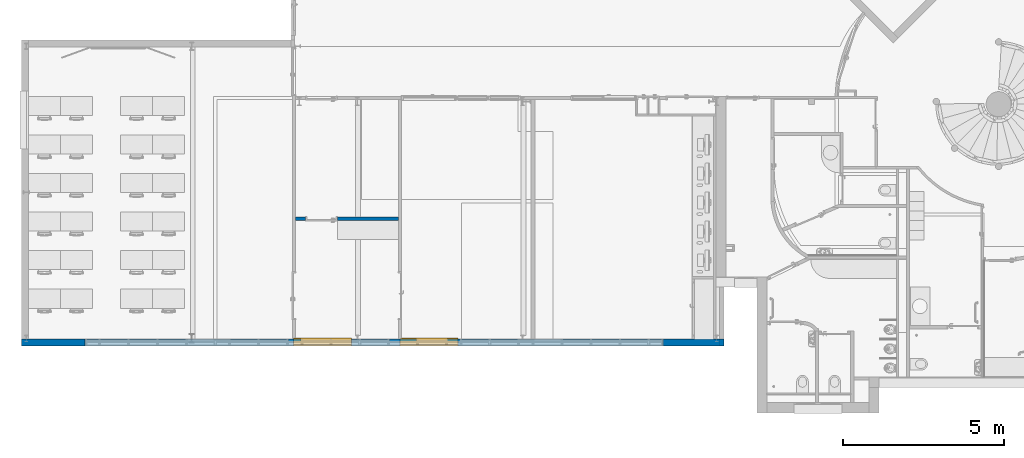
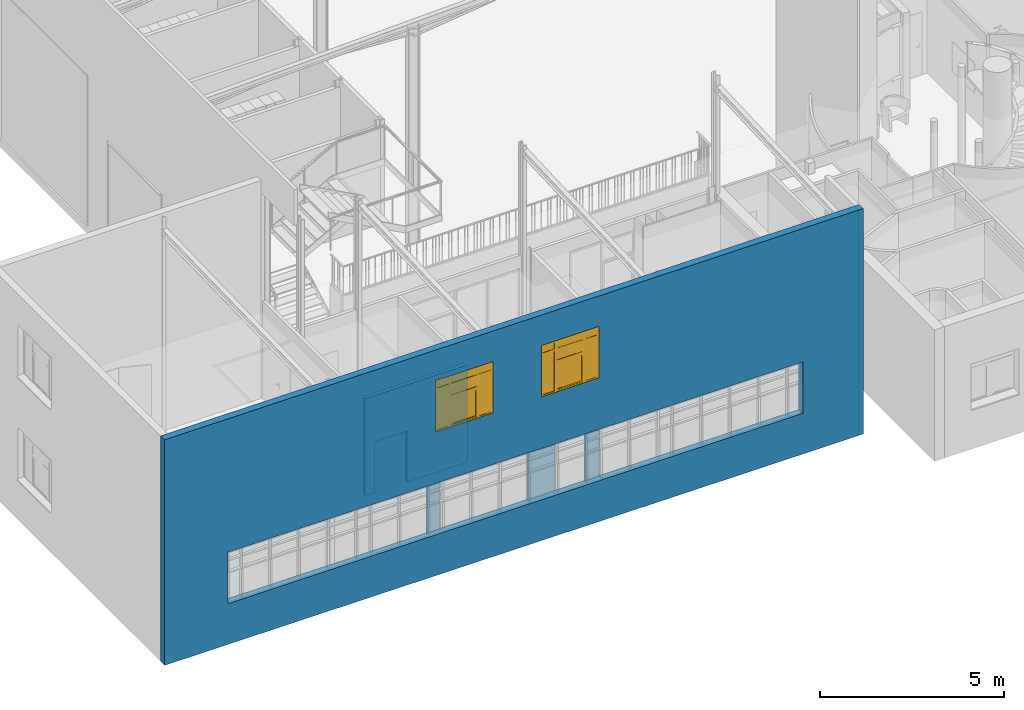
"""IFC2X3 building model written with IfcOpenShell, lengths in centimetres."""

from ifc_helpers import new_model, entity, si_unit, converted_unit, derived_unit, direction, frame, frame_2d, origin, place, context, subcontext, project, spatial, polyline, rectangle, outline, extrude, clip, bounded_halfspace, source, transform, mapped, material, layer, layer_set, layer_usage, type_object, type_shapes, element, fill, save


model = new_model("IFC2X3")

# Units and contexts
model_context = context("Model", 3, precision=0.001, world=origin(), true_north=direction((6.12303176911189e-17, 1.0)))
body_context = subcontext(model_context, "Body", "Model", "MODEL_VIEW")
ifc_project = project(units=[si_unit("LENGTHUNIT", "METRE", prefix="CENTI"), si_unit("AREAUNIT", "SQUARE_METRE"), si_unit("VOLUMEUNIT", "CUBIC_METRE"), converted_unit("PLANEANGLEUNIT", "DEGREE", entity("IfcRatioMeasure", 0.0174532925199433), si_unit("PLANEANGLEUNIT", "RADIAN"), dimensions=[0, 0, 0, 0, 0, 0, 0]), si_unit("MASSUNIT", "GRAM", prefix="KILO"), si_unit("TIMEUNIT", "SECOND"), si_unit("FREQUENCYUNIT", "HERTZ"), si_unit("THERMODYNAMICTEMPERATUREUNIT", "DEGREE_CELSIUS"), derived_unit("THERMALTRANSMITTANCEUNIT", [(si_unit("MASSUNIT", "GRAM", prefix="KILO"), 1), (si_unit("THERMODYNAMICTEMPERATUREUNIT", "KELVIN"), -1), (si_unit("TIMEUNIT", "SECOND"), -3)]), derived_unit("VOLUMETRICFLOWRATEUNIT", [(si_unit("LENGTHUNIT", "METRE"), 3), (si_unit("TIMEUNIT", "SECOND"), -1)]), si_unit("ELECTRICCURRENTUNIT", "AMPERE"), si_unit("ELECTRICVOLTAGEUNIT", "VOLT"), si_unit("POWERUNIT", "WATT"), si_unit("FORCEUNIT", "NEWTON", prefix="KILO"), si_unit("ILLUMINANCEUNIT", "LUX"), si_unit("LUMINOUSFLUXUNIT", "LUMEN"), si_unit("LUMINOUSINTENSITYUNIT", "CANDELA"), derived_unit("USERDEFINED", [(si_unit("MASSUNIT", "GRAM", prefix="KILO"), -1), (si_unit("LENGTHUNIT", "METRE"), -2), (si_unit("TIMEUNIT", "SECOND"), 3), (si_unit("LUMINOUSFLUXUNIT", "LUMEN"), 1)]), derived_unit("LINEARVELOCITYUNIT", [(si_unit("LENGTHUNIT", "METRE"), 1), (si_unit("TIMEUNIT", "SECOND"), -1)]), si_unit("PRESSUREUNIT", "PASCAL"), derived_unit("USERDEFINED", [(si_unit("LENGTHUNIT", "METRE"), -2), (si_unit("MASSUNIT", "GRAM", prefix="KILO"), 1), (si_unit("TIMEUNIT", "SECOND"), -2)])], contexts=[model_context])

# Site, building, storey
site_placement = place(None, frame((8.62739174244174, -249.285249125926, 0.0)))
site = spatial("IfcSite", under=ifc_project, at=site_placement, Name="Default", CompositionType="ELEMENT")
building_placement = place(site_placement, origin())
building = spatial("IfcBuilding", under=site, at=building_placement, CompositionType="ELEMENT")
storey_1_placement = place(building_placement, origin())
storey_1 = spatial("IfcBuildingStorey", under=building, at=storey_1_placement, Name="RDC", CompositionType="ELEMENT", Elevation=-8.82465566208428e-11)

# Walls
ifc_material_1 = material(Name="Plâtre EXISTANT")
ifc_layer_1 = layer(ifc_material_1, 7.0)
ifc_layer_set_1 = layer_set([ifc_layer_1], Name="Mur de base:PLA EXISTANT 7")
ifc_layer_usage_1 = layer_usage(ifc_layer_set_1, "AXIS2", "NEGATIVE", 3.5)
wall_type_1 = type_object("IfcWallType", Name="Mur de base:PLA EXISTANT 7", PredefinedType="STANDARD", material=ifc_layer_set_1)
wall_1_placement = place(storey_1_placement, frame((1146.5, 18.4999999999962, 0.0)))
element("IfcWallStandardCase", 1, at=wall_1_placement, inside=storey_1, type_object=wall_type_1, material=ifc_layer_usage_1, Name="Mur de base:PLA EXISTANT 7", ObjectType="Mur de base:PLA EXISTANT 7", context=body_context, shape_type="SweptSolid", body=[
    extrude(rectangle(XDim=84.9999999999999, YDim=7.0, at=frame_2d((42.5, 0.0), x_axis=(-1.0, 0.0))), origin(), (0.0, 0.0, 1.0), 390.0),
])
ifc_layer_usage_2 = layer_usage(ifc_layer_set_1, "AXIS2", "NEGATIVE", 3.5)
wall_2_placement = place(storey_1_placement, frame((1326.5, 18.4999999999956, 0.0)))
element("IfcWallStandardCase", 2, at=wall_2_placement, inside=storey_1, type_object=wall_type_1, material=ifc_layer_usage_2, Name="Mur de base:PLA EXISTANT 7", ObjectType="Mur de base:PLA EXISTANT 7", context=body_context, shape_type="SweptSolid", body=[
    extrude(rectangle(XDim=45.0000000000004, YDim=7.0, at=frame_2d((22.5000000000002, 0.0), x_axis=(-1.0, 0.0))), origin(), (0.0, 0.0, 1.0), 390.0),
])
ifc_layer_usage_3 = layer_usage(ifc_layer_set_1, "AXIS2", "NEGATIVE", 3.5)
wall_3_placement = place(storey_1_placement, frame((831.5, 18.4999999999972, 0.0)))
element("IfcWallStandardCase", 3, at=wall_3_placement, inside=storey_1, type_object=wall_type_1, material=ifc_layer_usage_3, Name="Mur de base:PLA EXISTANT 7", ObjectType="Mur de base:PLA EXISTANT 7", context=body_context, shape_type="SweptSolid", body=[
    extrude(rectangle(XDim=40.0000000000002, YDim=7.0, at=frame_2d((20.0000000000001, 0.0), x_axis=(-1.0, 0.0))), origin(), (0.0, 0.0, 1.0), 390.0),
])

# Wall, openings
ifc_material_2 = material(Name="Tôle/Doublage")
ifc_layer_2 = layer(ifc_material_2, 4.0)
ifc_material_3 = material(Name="Laine minérale")
ifc_layer_3 = layer(ifc_material_3, 16.0)
ifc_material_4 = material(Name="Plâtre")
ifc_layer_4 = layer(ifc_material_4, 2.0)
ifc_layer_set_2 = layer_set([ifc_layer_2, ifc_layer_3, ifc_layer_4], Name="Mur de base:MET 4 + ISO 16 + PLA 2")
ifc_layer_usage_4 = layer_usage(ifc_layer_set_2, "AXIS2", "NEGATIVE", 11.0)
wall_type_2 = type_object("IfcWallType", Name="Mur de base:MET 4 + ISO 16 + PLA 2", PredefinedType="STANDARD", material=ifc_layer_set_2)
wall_4_placement = place(storey_1_placement, frame((2188.90482780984, 11.0, -25.0), z_axis=(0.0, 0.0, 1.0), x_axis=(-1.0, 0.0, 0.0)))
wall_4 = element("IfcWallStandardCase", 4, at=wall_4_placement, inside=storey_1, type_object=wall_type_2, material=ifc_layer_usage_4, Name="Mur de base:MET 4 + ISO 16 + PLA 2", ObjectType="Mur de base:MET 4 + ISO 16 + PLA 2", context=body_context, shape_type="SweptSolid", body=[
    extrude(rectangle(XDim=2188.90482780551, YDim=22.0, at=frame_2d((1094.45241390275, 0.0), x_axis=(-1.0, 0.0))), origin(), (0.0, 0.0, 1.0), 747.000000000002),
])
opening_1_placement = place(wall_4_placement, origin())
element("IfcOpeningElement", 5, at=opening_1_placement, cuts=wall_4, Name="Mur de base:MET 4 + ISO 16 + PLA 2", ObjectType="Opening", context=body_context, shape_type="SweptSolid", body=[
    extrude(rectangle(XDim=170.0, YDim=1800.0, at=frame_2d((2.27373675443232e-13, 0.0), x_axis=(0.0, 1.0))), frame((1089.90482780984, -26.24, 220.0), z_axis=(0.0, 1.0, 0.0), x_axis=(-1.0, 0.0, 0.0)), (0.0, 0.0, 1.0), 52.48),
])
opening_2_placement = place(wall_4_placement, frame((1340.90482780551, 11.0, 476.0)))
opening_2 = element("IfcOpeningElement", 6, at=opening_2_placement, cuts=wall_4, Name="V_90x100-I_90x40:V_90x100-I_90x40:1", ObjectType="Opening", context=body_context, shape_type="SweptSolid", body=[
    extrude(rectangle(XDim=169.999999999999, YDim=180.0, at=frame_2d((84.9999999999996, 90.0000000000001), x_axis=(1.0, 0.0))), frame((0.0, 0.0, 0.0), z_axis=(0.0, -1.0, 0.0), x_axis=(0.0, 0.0, 1.0)), (0.0, 0.0, 1.0), 22.0),
])
opening_3_placement = place(wall_4_placement, frame((1008.90482780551, 11.0, 476.0)))
opening_3 = element("IfcOpeningElement", 7, at=opening_3_placement, cuts=wall_4, Name="V_90x100-I_90x40:V_90x100-I_90x40:1", ObjectType="Opening", context=body_context, shape_type="SweptSolid", body=[
    extrude(rectangle(XDim=169.999999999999, YDim=180.0, at=frame_2d((84.9999999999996, 90.0000000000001), x_axis=(1.0, 0.0))), frame((0.0, 0.0, 0.0), z_axis=(0.0, -1.0, 0.0), x_axis=(0.0, 0.0, 1.0)), (0.0, 0.0, 1.0), 22.0),
])

# Storey
storey_2_placement = place(building_placement, frame((0.0, 0.0, 343.0)))
storey_2 = spatial("IfcBuildingStorey", under=building, at=storey_2_placement, Name="R+1", CompositionType="ELEMENT", Elevation=343.0)

# Window
ifc_material_5 = material(Name="Verre")
window_style = type_object("IfcWindowStyle", Name="V_90x100-I_90x40", ConstructionType="NOTDEFINED", OperationType="NOTDEFINED", ParameterTakesPrecedence=False, Sizeable=False, material=ifc_material_5)
shared_shape = source(origin(), body_context, "Body", "SweptSolid", [
    extrude(outline(polyline([(-50.9, -41.0), (-50.9, -49.0), (-29.9000000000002, -49.0), (-29.9000000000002, -85.0), (-21.8999999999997, -85.0), (-21.8999999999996, -49.0), (109.099999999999, -49.0), (109.099999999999, -41.0), (17.1000000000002, -41.0), (17.1000000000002, 41.0), (109.1, 41.0), (109.1, 49.0), (-21.8999999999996, 49.0), (-21.8999999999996, 85.0), (-29.9000000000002, 85.0), (-29.9000000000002, 49.0), (-50.8999999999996, 49.0), (-50.8999999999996, 41.0), (-29.9000000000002, 41.0), (-29.9000000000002, -41.0), (-50.9, -41.0)]), holes=[polyline([(9.09999999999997, 41.0), (9.09999999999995, -41.0), (-21.8999999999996, -41.0), (-21.8999999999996, 41.0), (9.09999999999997, 41.0)])]), frame((90.0, 0.0, 114.099999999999), z_axis=(0.0, -1.0, 0.0), x_axis=(0.0, 0.0, -1.0)), (0.0, 0.0, -1.0), 5.0),
    extrude(outline(polyline([(-85.0, -90.0), (85.0, -90.0), (85.0, 90.0), (-85.0, 90.0), (-85.0, -90.0)]), holes=[polyline([(80.0, -85.0), (-80.0, -85.0), (-80.0, 85.0), (80.0, 85.0), (80.0, -85.0)])]), frame((90.0, 0.0, 85.0), z_axis=(0.0, 1.0, 0.0), x_axis=(0.0, 0.0, -1.0)), (0.0, 0.0, 1.0), 4.99999999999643),
    extrude(rectangle(XDim=2.0, YDim=73.9999999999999, at=frame_2d((-8.88178419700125e-16, 0.0), x_axis=(1.0, 0.0))), frame((90.0, 2.5, 9.0), z_axis=(0.0, 0.0, 1.0), x_axis=(0.0, 1.0, 0.0)), (0.0, 0.0, 1.0), 83.9999999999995),
    extrude(outline(polyline([(-46.0, -41.0), (46.0, -41.0), (46.0, 41.0), (-46.0, 41.0), (-46.0, -41.0)]), holes=[polyline([(42.0, -37.0), (-42.0, -37.0), (-42.0, 37.0), (42.0, 37.0), (42.0, -37.0)])]), frame((90.0, 0.499999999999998, 51.0), z_axis=(0.0, 1.0, 0.0), x_axis=(0.0, 0.0, -1.0)), (0.0, 0.0, 1.0), 4.0),
    extrude(rectangle(XDim=3.0, YDim=36.0, at=frame_2d((-3.33066907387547e-16, 0.0), x_axis=(1.0, 0.0))), frame((157.0, 2.5, 5.0), z_axis=(0.0, 0.0, 1.0), x_axis=(0.0, 1.0, 0.0)), (0.0, 0.0, 1.0), 130.999999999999),
    extrude(rectangle(XDim=3.0, YDim=36.0000000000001, at=frame_2d((-3.33066907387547e-16, -7.105427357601e-15), x_axis=(1.0, 0.0))), frame((23.0, 2.5, 5.0), z_axis=(0.0, 0.0, 1.0), x_axis=(0.0, 1.0, 0.0)), (0.0, 0.0, 1.0), 130.999999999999),
    extrude(rectangle(XDim=3.0, YDim=82.0, at=frame_2d((-3.33066907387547e-16, 0.0), x_axis=(1.0, 0.0))), frame((90.0, 2.5, 105.0), z_axis=(0.0, 0.0, 1.0), x_axis=(0.0, 1.0, 0.0)), (0.0, 0.0, 1.0), 30.9999999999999),
    extrude(rectangle(XDim=3.0, YDim=35.9999999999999, at=frame_2d((-3.33066907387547e-16, 0.0), x_axis=(1.0, 0.0))), frame((157.0, 2.5, 144.0), z_axis=(0.0, 0.0, 1.0), x_axis=(0.0, 1.0, 0.0)), (0.0, 0.0, 1.0), 20.9999999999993),
    extrude(rectangle(XDim=3.0, YDim=36.0, at=frame_2d((-3.33066907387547e-16, -3.5527136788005e-15), x_axis=(1.0, 0.0))), frame((23.0, 2.5, 144.0), z_axis=(0.0, 0.0, 1.0), x_axis=(0.0, 1.0, 0.0)), (0.0, 0.0, 1.0), 20.9999999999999),
    extrude(rectangle(XDim=3.0, YDim=82.0, at=frame_2d((-3.33066907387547e-16, 0.0), x_axis=(1.0, 0.0))), frame((90.0, 2.5, 144.0), z_axis=(0.0, 0.0, 1.0), x_axis=(0.0, 1.0, 0.0)), (0.0, 0.0, 1.0), 20.9999999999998),
    extrude(outline(polyline([(-5.75769185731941, -2.03983399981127), (15.284294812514, -2.03983399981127), (15.2505167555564, -1.50593804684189), (-5.29025998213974, -1.50926125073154), (-5.47968260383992, 1.48475262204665), (-3.98267566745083, 1.57946393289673), (-4.01424610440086, 2.07846624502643), (-6.01025535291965, 1.95218449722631), (-5.75769185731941, -2.03983399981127)])), frame((0.0, 20.1250000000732, -0.00082749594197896), z_axis=(1.0, 0.0, 0.0), x_axis=(0.0, -0.998004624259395, 0.0631408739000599)), (0.0, 0.0, 1.0), 180.0),
])
type_shapes(window_style, [shared_shape])
window_1_placement = place(opening_2_placement, frame((4.33533386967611e-09, 0.0, 0.0), z_axis=(0.0, 0.0, 1.0), x_axis=(-1.0, 0.0, 0.0)))
window_1 = element("IfcWindow", 8, at=window_1_placement, inside=storey_2, type_object=window_style, material=ifc_material_5, Name="V_90x100-I_90x40:V_90x100-I_90x40", ObjectType="V_90x100-I_90x40", OverallHeight=169.999999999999, OverallWidth=180.0, context=body_context, shape_type="MappedRepresentation", body=[
    mapped(shared_shape, transform((0.0, 0.0, 0.0), scale=1.0)),
])

fill(opening_2, window_1)

# Storey
storey_3_placement = place(building_placement, frame((0.0, 0.0, 410.0)))
storey_3 = spatial("IfcBuildingStorey", under=building, at=storey_3_placement, Name="Acrotère E1", CompositionType="ELEMENT", Elevation=410.000000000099)

# Window
window_2_placement = place(opening_3_placement, frame((4.33510649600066e-09, 0.0, 0.0), z_axis=(0.0, 0.0, 1.0), x_axis=(-1.0, 0.0, 0.0)))
window_2 = element("IfcWindow", 9, at=window_2_placement, inside=storey_3, type_object=window_style, material=ifc_material_5, Name="V_90x100-I_90x40:V_90x100-I_90x40", ObjectType="V_90x100-I_90x40", OverallHeight=169.999999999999, OverallWidth=180.0, context=body_context, shape_type="MappedRepresentation", body=[
    mapped(shared_shape, transform((0.0, 0.0, 0.0), scale=1.0)),
])

fill(opening_3, window_2)

# Wall, openings, windows
ifc_layer_usage_5 = layer_usage(ifc_layer_set_2, "AXIS2", "NEGATIVE", 11.0)
wall_5_placement = place(storey_1_placement, frame((2174.90482780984, 11.0, -25.0), z_axis=(0.0, 0.0, 1.0), x_axis=(-1.0, 0.0, 0.0)))
wall_5 = element("IfcWallStandardCase", 10, at=wall_5_placement, inside=storey_1, type_object=wall_type_2, material=ifc_layer_usage_5, Name="Mur de base:MET 4 + ISO 16 + PLA 2", ObjectType="Mur de base:MET 4 + ISO 16 + PLA 2", context=body_context, shape_type="SweptSolid", body=[
    extrude(rectangle(XDim=2174.90482780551, YDim=22.0, at=frame_2d((1087.45241390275, -8.88178419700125e-16), x_axis=(-1.0, 0.0))), origin(), (0.0, 0.0, 1.0), 747.000000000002),
])
opening_4_placement = place(wall_5_placement, origin())
element("IfcOpeningElement", 11, at=opening_4_placement, cuts=wall_5, Name="Mur de base:MET 4 + ISO 16 + PLA 2", ObjectType="Opening", context=body_context, shape_type="SweptSolid", body=[
    extrude(rectangle(XDim=170.0, YDim=1800.0, at=frame_2d((2.27373675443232e-13, 0.0), x_axis=(0.0, 1.0))), frame((1075.90482780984, -26.24, 220.0), z_axis=(0.0, 1.0, 0.0), x_axis=(-1.0, 0.0, 0.0)), (0.0, 0.0, 1.0), 52.48),
])
opening_5_placement = place(wall_5_placement, frame((1326.90482780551, 11.0, 476.0)))
opening_5 = element("IfcOpeningElement", 12, at=opening_5_placement, cuts=wall_5, Name="V_90x100-I_90x40:V_90x100-I_90x40:1", ObjectType="Opening", context=body_context, shape_type="SweptSolid", body=[
    extrude(rectangle(XDim=169.999999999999, YDim=180.0, at=frame_2d((84.9999999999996, 90.0000000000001), x_axis=(1.0, 0.0))), frame((0.0, 0.0, 0.0), z_axis=(0.0, -1.0, 0.0), x_axis=(0.0, 0.0, 1.0)), (0.0, 0.0, 1.0), 22.0),
])
opening_6_placement = place(wall_5_placement, frame((994.904827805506, 11.0, 476.0)))
opening_6 = element("IfcOpeningElement", 13, at=opening_6_placement, cuts=wall_5, Name="V_90x100-I_90x40:V_90x100-I_90x40:1", ObjectType="Opening", context=body_context, shape_type="SweptSolid", body=[
    extrude(rectangle(XDim=169.999999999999, YDim=180.0, at=frame_2d((84.9999999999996, 90.0000000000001), x_axis=(1.0, 0.0))), frame((0.0, 0.0, 0.0), z_axis=(0.0, -1.0, 0.0), x_axis=(0.0, 0.0, 1.0)), (0.0, 0.0, 1.0), 22.0),
])
window_3_placement = place(opening_5_placement, frame((4.33556124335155e-09, 0.0, 0.0), z_axis=(0.0, 0.0, 1.0), x_axis=(-1.0, 0.0, 0.0)))
window_3 = element("IfcWindow", 14, at=window_3_placement, inside=storey_2, type_object=window_style, material=ifc_material_5, Name="V_90x100-I_90x40:V_90x100-I_90x40", ObjectType="V_90x100-I_90x40", OverallHeight=169.999999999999, OverallWidth=180.0, context=body_context, shape_type="MappedRepresentation", body=[
    mapped(shared_shape, transform((0.0, 0.0, 0.0), scale=1.0)),
])
fill(opening_5, window_3)
window_4_placement = place(opening_6_placement, frame((4.33556124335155e-09, 0.0, 0.0), z_axis=(0.0, 0.0, 1.0), x_axis=(-1.0, 0.0, 0.0)))
window_4 = element("IfcWindow", 15, at=window_4_placement, inside=storey_3, type_object=window_style, material=ifc_material_5, Name="V_90x100-I_90x40:V_90x100-I_90x40", ObjectType="V_90x100-I_90x40", OverallHeight=169.999999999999, OverallWidth=180.0, context=body_context, shape_type="MappedRepresentation", body=[
    mapped(shared_shape, transform((0.0, 0.0, 0.0), scale=1.0)),
])
fill(opening_6, window_4)

# Wall, opening
ifc_layer_5 = layer(ifc_material_4, 12.0)
ifc_layer_set_3 = layer_set([ifc_layer_5], Name="Mur de base:PLA 12")
ifc_layer_usage_6 = layer_usage(ifc_layer_set_3, "AXIS2", "NEGATIVE", 6.0)
wall_type_3 = type_object("IfcWallType", Name="Mur de base:PLA 12", PredefinedType="STANDARD", material=ifc_layer_set_3)
wall_6_placement = place(storey_1_placement, frame((854.0, 397.0, 0.0)))
wall_6 = element("IfcWallStandardCase", 16, at=wall_6_placement, inside=storey_1, type_object=wall_type_3, material=ifc_layer_usage_6, Name="Mur de base:PLA 12", ObjectType="Mur de base:PLA 12", context=body_context, shape_type="Clipping", body=[
    clip(extrude(rectangle(XDim=320.0, YDim=12.0, at=frame_2d((160.0, 4.44089209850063e-16), x_axis=(-1.0, 0.0))), origin(), (0.0, 0.0, 1.0), 322.000000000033), bounded_halfspace(frame((0.0, -6.0, 322.0), z_axis=(0.0, 0.0, -1.0), x_axis=(-1.0, 0.0, 0.0)), True, frame((0.0, -6.0, 322.0)), polyline([(0.0, 0.0), (320.0, 0.0), (320.0, 12.0), (0.0, 12.0), (0.0, 0.0)]))),
])
opening_7_placement = place(wall_6_placement, frame((130.90482781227, 6.0, 0.0)))
element("IfcOpeningElement", 17, at=opening_7_placement, cuts=wall_6, Name="Simple(R)_bois_mu:93 x 165 cm:1", ObjectType="Opening", context=body_context, shape_type="SweptSolid", body=[
    extrude(rectangle(XDim=168.5, YDim=99.9999999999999, at=frame_2d((84.25, 50.0), x_axis=(1.0, 0.0))), frame((0.0, 0.0, 0.0), z_axis=(0.0, -1.0, 0.0), x_axis=(0.0, 0.0, 1.0)), (0.0, 0.0, 1.0), 12.0),
])

save(model, "model.ifc")
